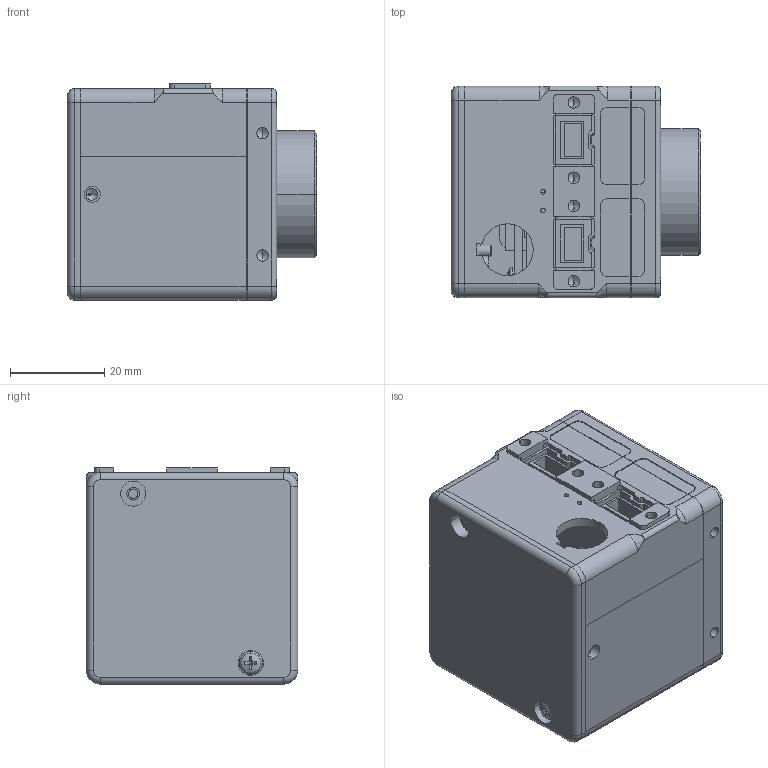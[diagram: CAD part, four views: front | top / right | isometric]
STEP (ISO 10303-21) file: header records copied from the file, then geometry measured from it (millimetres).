
FILE_DESCRIPTION((''),'2;1');
FILE_NAME('Stingray compact.stp','2010-02-25T13:52:30',(''),(''),'Mechanical Desktop 2007','Mechanical Desktop 2007',', , ');
FILE_SCHEMA(('CONFIG_CONTROL_DESIGN'));
Length unit declared in the file: millimetre
Products named in the file (29): ZUS; FRONTFLANSCH_STANDARD; FRONTFLANSCH_STANDARDA; SENSORAUFLAGE ICX267; SENSORAUFLAGE ICX267A; Sensorauflage ICX267|AVE_RENDER; Sensorauflage ICX267|AVE_GLOBAL; SENSOR ICX267DWG; SENSOR ICX267DWGA; SENSORBOARD H21-07-M3; SENSORBOARD H21-07-M3A; FILTERHALTER_1A; FILTERHALTER_1; MONTAGESCHALE BESCHRIFTUNGA; MONTAGESCHALE BESCHRIFTUNG; STECKERSCHALE_7_08A; STECKERSCHALE_7_08; ABSCHLUSSPLATTE_11_08A; ABSCHLUSSPLATTE_11_08; ABSTIMMSCHEIBE; ABSTIMMSCHEIBEA; ABSTIMMSCHEIBE|AVE_RENDER; ABSTIMMSCHEIBE|AVE_GLOBAL; M3-F-IF-CCA; M3-F-IF-CC; AUFSATZBOARD M3; AUFSATZBOARD M3A; FLACHKOPFSCHRAUBE MIT KREUZSCHLITZ - ISO 7045 M2.5 X 6 - 4.8 - Z; FLACHKOPFSCHRAUBE MIT KREUZSCHLITZ - ISO 7045 M2 X 10 - 4.8 - Z
Assembly tree (46 placements, depth 3):
  ZUS
    FRONTFLANSCH_STANDARD
      FRONTFLANSCH_STANDARDA
    SENSORAUFLAGE ICX267
      SENSORAUFLAGE ICX267A
      Sensorauflage ICX267|AVE_RENDER  x8
      Sensorauflage ICX267|AVE_GLOBAL
    SENSOR ICX267DWG
      SENSOR ICX267DWGA
    SENSORBOARD H21-07-M3
      SENSORBOARD H21-07-M3A
    FILTERHALTER_1A
      FILTERHALTER_1
    MONTAGESCHALE BESCHRIFTUNGA
      MONTAGESCHALE BESCHRIFTUNG
    STECKERSCHALE_7_08A
      STECKERSCHALE_7_08
    ABSCHLUSSPLATTE_11_08A
      ABSCHLUSSPLATTE_11_08
    ABSTIMMSCHEIBE
      ABSTIMMSCHEIBEA
      ABSTIMMSCHEIBE|AVE_RENDER  x8
      ABSTIMMSCHEIBE|AVE_GLOBAL
    M3-F-IF-CCA
      M3-F-IF-CC
    AUFSATZBOARD M3
      AUFSATZBOARD M3A
    FLACHKOPFSCHRAUBE MIT KREUZSCHLITZ - ISO 7045 M2.5 X 6 - 4.8 - Z  x2
    FLACHKOPFSCHRAUBE MIT KREUZSCHLITZ - ISO 7045 M2 X 10 - 4.8 - Z  x4
Bounding box: 53 x 45 x 46 mm (x, y, z)
Volume: 45665 mm3; surface area: 45011.2 mm2
Topology: 17 solids, 17 shells, 1208 faces, 3121 edges, 1954 vertices
Faces by surface type: plane 680, cylinder 348, cone 142, torus 24, bspline 8, sphere 6
Entity records: 32666 total; most frequent: CARTESIAN_POINT 6013, DIRECTION 5556, ORIENTED_EDGE 5386, EDGE_CURVE 2693, AXIS2_PLACEMENT_3D 1853, VECTOR 1850, LINE 1850, VERTEX_POINT 1744
